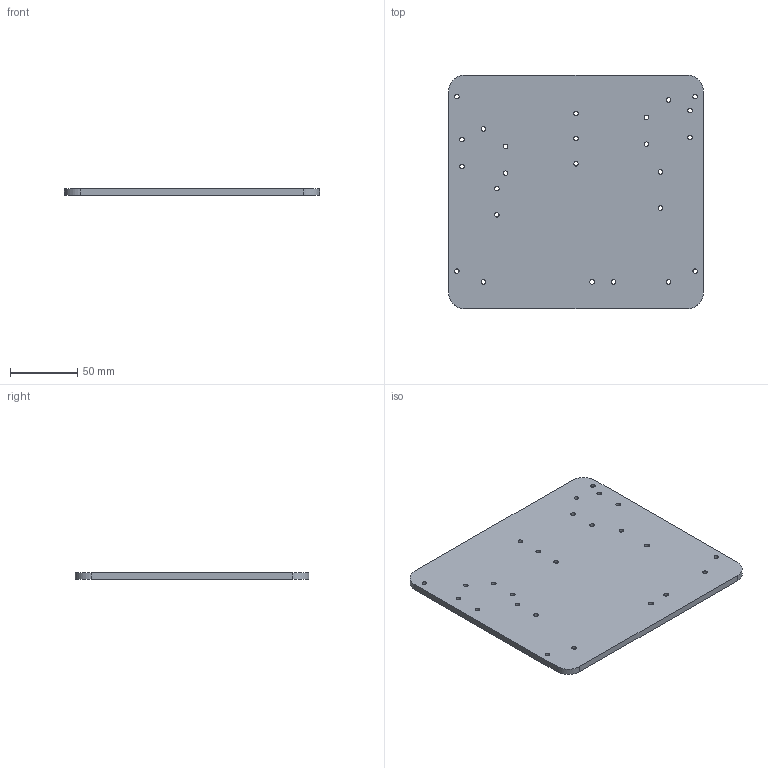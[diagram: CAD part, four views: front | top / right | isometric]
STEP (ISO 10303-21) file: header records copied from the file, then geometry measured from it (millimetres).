
FILE_DESCRIPTION(('Open CASCADE Model'),'2;1');
FILE_NAME('A00_single_base','2026-11-05T16:12:13',('Author'),( 'Open CASCADE'),'Open CASCADE STEP processor 7.9','build123d', 'Unknown');
FILE_SCHEMA(('AUTOMOTIVE_DESIGN { 1 0 10303 214 1 1 1 1 }'));
Length unit declared in the file: millimetre
Products named in the file (2): A00_single_base
Assembly tree (1 placements, depth 2):
  A00_single_base
    A00_single_base
Bounding box: 190 x 174 x 4.8 mm (x, y, z)
Volume: 155504.3 mm3; surface area: 70708.7 mm2
Topology: 1 solids, 1 shells, 85 faces, 174 edges, 116 vertices
Faces by surface type: cylinder 54, plane 31
Full cylindrical faces by diameter (mm): 3.4 x25, 6.4 x25
Entity records: 4734 total; most frequent: DIRECTION 796, CARTESIAN_POINT 773, ORIENTED_EDGE 348, PCURVE 348, DEFINITIONAL_REPRESENTATION 348, LINE 306, VECTOR 306, CIRCLE 208
